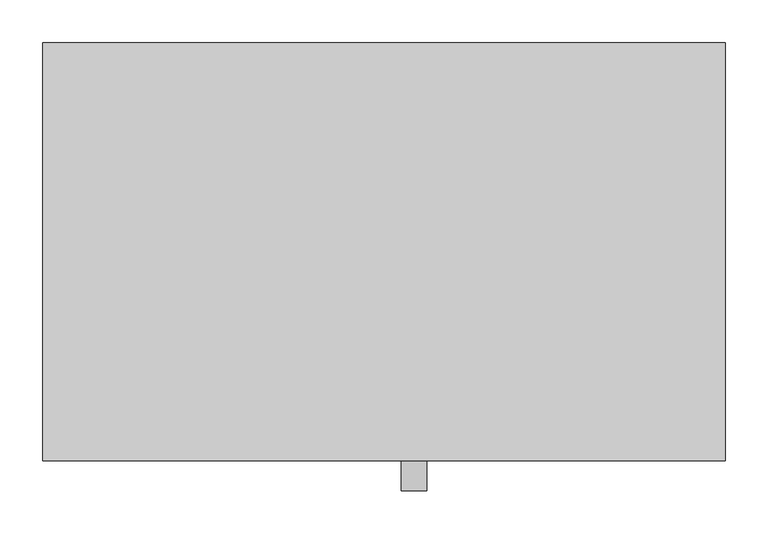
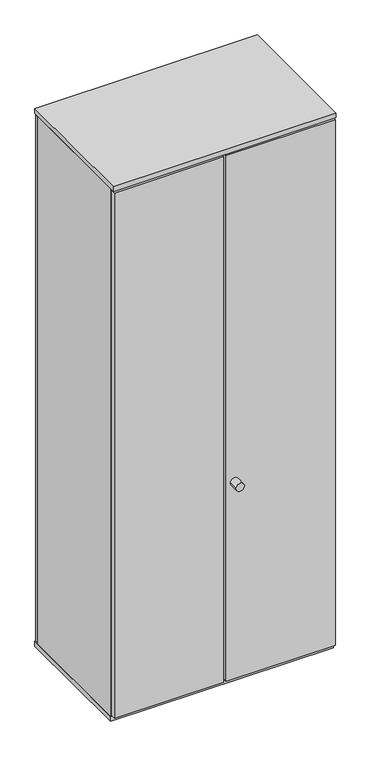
"""IFC4 building model written with IfcOpenShell, lengths in millimetres: furniture geometry, Grid Lockers - 2 Door Complimentary : GRID TWO DOOR CABINET 800mm(w) x 490mm(d) x 2052mm(h)."""

from ifc_helpers import new_model, si_unit, point, frame, frame_2d, origin, origin_with_axes, place, context, project, spatial, polyline, circle_curve, trimmed, segment, composite_curve, outline, extrude, source, transform, mapped, element, save


def furniture_2f006f1c(model_context):
    return source(origin(), model_context, "Body", "SweptSolid", [
        extrude(outline(composite_curve([segment(trimmed(circle_curve(frame_2d((750.0, -50.0)), 15.0), [point((735.0, -50.0))], [point((765.0, -50.0))], False, "CARTESIAN"), True, "CONTINUOUS"), segment(trimmed(circle_curve(frame_2d((750.0, -50.0)), 15.0), [point((765.0, -50.0))], [point((735.0, -50.0))], False, "CARTESIAN"), True, "CONTINUOUS")], self_intersect=False)), origin_with_axes(), (0.0, 0.0, 1.0), 10.0),
        extrude(outline(composite_curve([segment(trimmed(circle_curve(frame_2d((50.0, -50.0)), 15.0), [point((35.0, -50.0))], [point((65.0, -50.0))], False, "CARTESIAN"), True, "CONTINUOUS"), segment(trimmed(circle_curve(frame_2d((50.0, -50.0)), 15.0), [point((65.0, -50.0))], [point((35.0, -50.0))], False, "CARTESIAN"), True, "CONTINUOUS")], self_intersect=False)), origin_with_axes(), (0.0, 0.0, 1.0), 10.0),
        extrude(outline(composite_curve([segment(trimmed(circle_curve(frame_2d((50.0, -440.0)), 15.0), [point((35.0, -440.0))], [point((65.0, -440.0))], False, "CARTESIAN"), True, "CONTINUOUS"), segment(trimmed(circle_curve(frame_2d((50.0, -440.0)), 15.0), [point((65.0, -440.0))], [point((35.0, -440.0))], False, "CARTESIAN"), True, "CONTINUOUS")], self_intersect=False)), origin_with_axes(), (0.0, 0.0, 1.0), 10.0),
        extrude(outline(composite_curve([segment(trimmed(circle_curve(frame_2d((750.0, -440.0)), 15.0), [point((735.0, -440.0))], [point((765.0, -440.0))], False, "CARTESIAN"), True, "CONTINUOUS"), segment(trimmed(circle_curve(frame_2d((750.0, -440.0)), 15.0), [point((765.0, -440.0))], [point((735.0, -440.0))], False, "CARTESIAN"), True, "CONTINUOUS")], self_intersect=False)), origin_with_axes(), (0.0, 0.0, 1.0), 10.0),
        extrude(outline(polyline([(800.0, -472.0), (0.0, -472.0), (0.0, 0.0), (800.0, 0.0), (800.0, -472.0)])), frame((0.0, 0.0, 10.0), z_axis=(0.0, 0.0, 1.0), x_axis=(1.0, 0.0, 0.0)), (0.0, 0.0, 1.0), 18.0),
        extrude(outline(polyline([(800.0, -490.0), (0.0, -490.0), (0.0, 0.0), (800.0, 0.0), (800.0, -490.0)])), frame((0.0, 0.0, 2034.0), z_axis=(0.0, 0.0, 1.0), x_axis=(1.0, 0.0, 0.0)), (0.0, 0.0, 1.0), 18.0),
        extrude(outline(composite_curve([segment(trimmed(circle_curve(frame_2d((780.0, 435.0)), 15.0), [point((780.0, 420.0))], [point((780.0, 450.0))], False, "CARTESIAN"), True, "CONTINUOUS"), segment(trimmed(circle_curve(frame_2d((780.0, 435.0)), 15.0), [point((780.0, 450.0))], [point((780.0, 420.0))], False, "CARTESIAN"), True, "CONTINUOUS")], self_intersect=False)), frame((0.0, -525.0, 0.0), z_axis=(0.0, 1.0, 0.0), x_axis=(0.0, 0.0, 1.0)), (0.0, 0.0, 1.0), 35.0),
        extrude(outline(polyline([(2034.0, 800.0), (2034.0, 0.0), (28.0, 0.0), (28.0, 3.0), (2009.0, 3.0), (2009.0, 797.0), (28.0, 797.0), (28.0, 800.0), (2034.0, 800.0)])), frame((0.0, -472.0, 0.0), z_axis=(0.0, 1.0, 0.0), x_axis=(0.0, 0.0, 1.0)), (0.0, 0.0, 1.0), 454.0),
        extrude(outline(polyline([(395.0, -472.0), (395.0, -490.0), (3.0, -490.0), (3.0, -472.0), (395.0, -472.0)])), frame((0.0, 0.0, 32.0), z_axis=(0.0, 0.0, 1.0), x_axis=(1.0, 0.0, 0.0)), (0.0, 0.0, 1.0), 1996.0),
        extrude(outline(polyline([(797.0, -490.0), (405.0, -490.0), (405.0, -472.0), (797.0, -472.0), (797.0, -490.0)])), frame((0.0, 0.0, 32.0), z_axis=(0.0, 0.0, 1.0), x_axis=(1.0, 0.0, 0.0)), (0.0, 0.0, 1.0), 1996.0),
        extrude(outline(polyline([(797.0, 0.0), (797.0, -18.0), (3.0, -18.0), (3.0, 0.0), (797.0, 0.0)])), frame((0.0, 0.0, 18.0), z_axis=(0.0, 0.0, 1.0), x_axis=(1.0, 0.0, 0.0)), (0.0, 0.0, 1.0), 2010.0),
    ])


if __name__ == "__main__":
    model = new_model("IFC4")
    model_context = context("Model", 3, world=origin())
    ifc_project = project(units=[si_unit("LENGTHUNIT", "METRE", prefix="MILLI")], contexts=[model_context])
    site = spatial("IfcSite", under=ifc_project)
    building = spatial("IfcBuilding", under=site)
    placement = place(None, origin())
    furniture_shape = furniture_2f006f1c(model_context)
    element("IfcFurniture", 1, ObjectType="Grid Lockers - 2 Door Complimentary : GRID TWO DOOR CABINET 800mm(w) x 490mm(d) x 2052mm(h)", at=placement, inside=building, context=model_context, shape_type="MappedRepresentation", body=[
        mapped(furniture_shape, transform((0.0, 0.0, 0.0), x_axis=(1.0, 0.0, 0.0), y_axis=(0.0, 1.0, 0.0), z_axis=(0.0, 0.0, 1.0))),
    ])
    save(model, "model.ifc")
